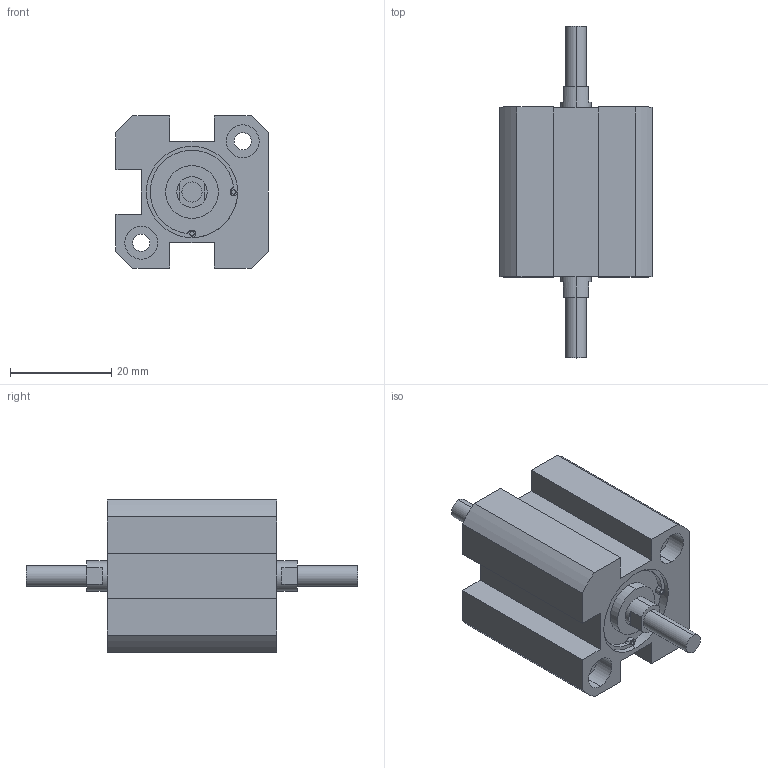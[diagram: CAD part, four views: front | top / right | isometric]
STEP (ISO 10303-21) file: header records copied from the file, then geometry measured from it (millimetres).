
FILE_DESCRIPTION (( 'STEP AP203' ), '1' );
FILE_NAME ('XC#M7-16-10.STEP', '2016-05-23T08:54:11', ( '' ), ( '' ), 'SwSTEP 2.0', 'SolidWorks 2014', '' );
FILE_SCHEMA (( 'CONFIG_CONTROL_DESIGN' ));
Length unit declared in the file: millimetre
Products named in the file (1): XC#M7-16-10
Bounding box: 30 x 65.5 x 30 mm (x, y, z)
Volume: 23594.3 mm3; surface area: 8248.3 mm2
Topology: 1 solids, 1 shells, 106 faces, 258 edges, 168 vertices
Faces by surface type: cylinder 58, plane 44, cone 4
Entity records: 3217 total; most frequent: DIRECTION 594, CARTESIAN_POINT 529, ORIENTED_EDGE 508, EDGE_CURVE 254, AXIS2_PLACEMENT_3D 233, VERTEX_POINT 168, LINE 128, VECTOR 128
